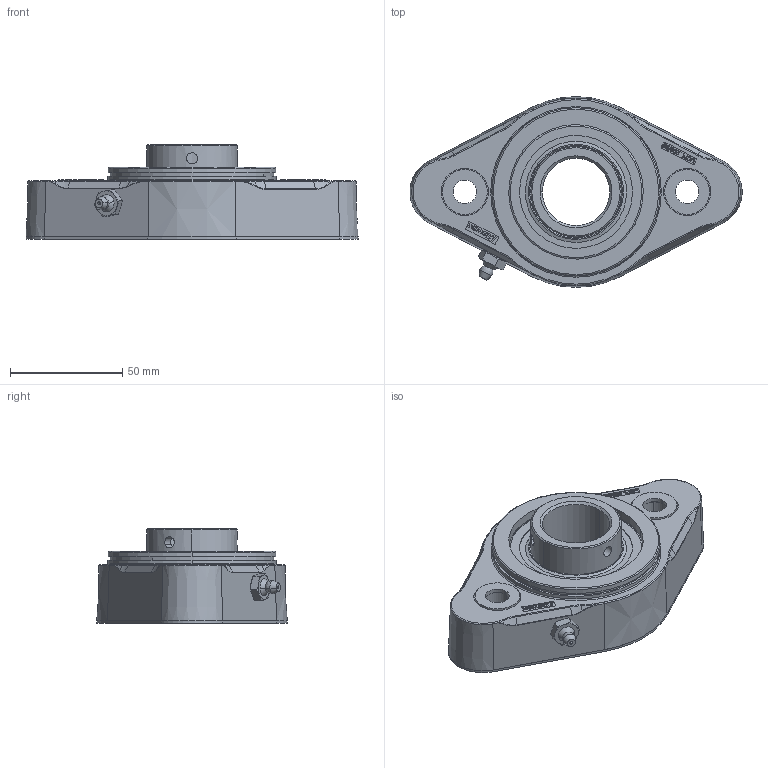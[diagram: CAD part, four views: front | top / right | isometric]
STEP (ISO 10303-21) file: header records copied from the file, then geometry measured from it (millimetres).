
FILE_DESCRIPTION(('CATIA V5 STEP Exchange'),'2;1');
FILE_NAME('X:\CODICI MOVEX\3D per clienti\3D definitivi\Part 800\P80102_01.stp','2016-10-14T15:13:11+00:00',('none'),('none'),'Version 5-6 Release 2012','CATIA V5 STEP AP203','none');
FILE_SCHEMA(('CONFIG_CONTROL_DESIGN'));
Length unit declared in the file: millimetre
Products named in the file (1): P80102_01
Assembly tree (7 placements, depth 2):
  P80102_01
    #58
    #84344
    #87320  x2
    #87600  x2
    #87784
Bounding box: 147.82 x 84.93 x 42 mm (x, y, z)
Volume: 126046.7 mm3; surface area: 80076.5 mm2
Topology: 20 solids, 40 shells, 2797 faces, 7725 edges, 4972 vertices
Faces by surface type: plane 2188, cylinder 285, sphere 102, torus 70, bspline 66, cone 66, revolution 20
Entity records: 89189 total; most frequent: CARTESIAN_POINT 20552, ORIENTED_EDGE 15218, DIRECTION 12223, EDGE_CURVE 7609, VECTOR 6550, LINE 6550, VERTEX_POINT 4952, AXIS2_PLACEMENT_3D 3158
